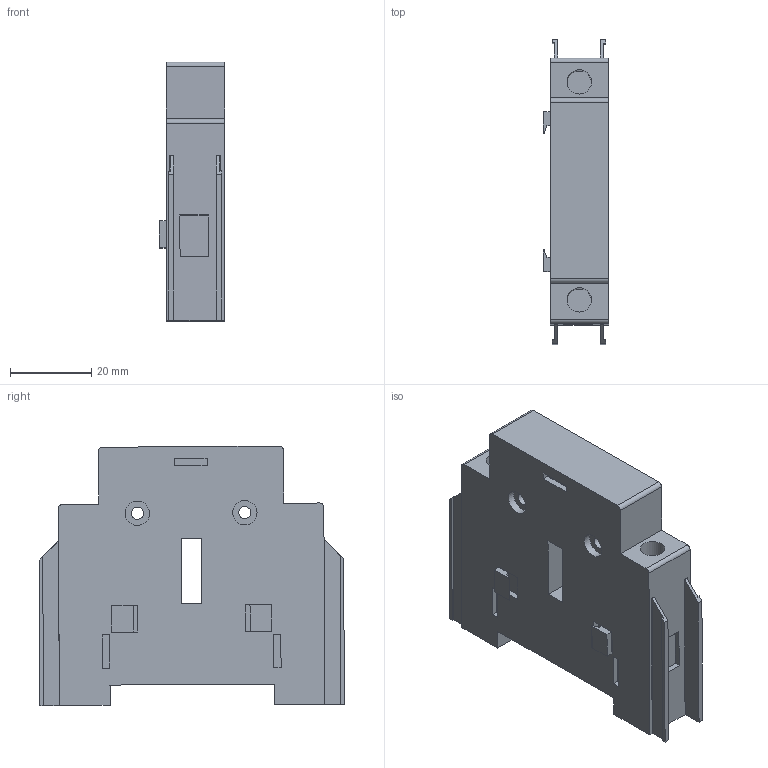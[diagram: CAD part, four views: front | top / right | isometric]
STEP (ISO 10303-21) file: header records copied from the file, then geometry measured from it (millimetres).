
FILE_DESCRIPTION (( 'STEP AP203' ), '1' );
FILE_NAME ('栖闉罻3.STEP', '2023-02-21T21:44:28', ( '砐錪賧瘔蠈錪' ), ( '' ), 'SwSTEP 2.0', 'SolidWorks 2018', '' );
FILE_SCHEMA (( 'CONFIG_CONTROL_DESIGN' ));
Length unit declared in the file: millimetre
Products named in the file (2): Ïîëþñ ÷åòâåðòûé OptiSwitch DI-16-63; 栖闉罻3
Assembly tree (1 placements, depth 2):
  栖闉罻3
    Ïîëþñ ÷åòâåðòûé OptiSwitch DI-16-63
Bounding box: 16 x 75.06 x 63.8 mm (x, y, z)
Volume: 47602.7 mm3; surface area: 16177.8 mm2
Topology: 3 solids, 3 shells, 146 faces, 379 edges, 253 vertices
Faces by surface type: plane 131, cylinder 9, bspline 6
Full cylindrical faces by diameter (mm): 3 x2, 6 x4, 7.154 x2
Entity records: 4553 total; most frequent: CARTESIAN_POINT 848, ORIENTED_EDGE 738, DIRECTION 663, EDGE_CURVE 369, VECTOR 339, LINE 339, VERTEX_POINT 251, EDGE_LOOP 174
